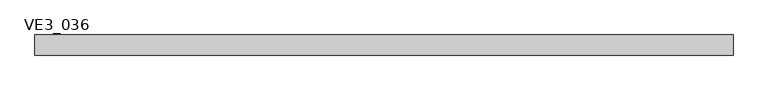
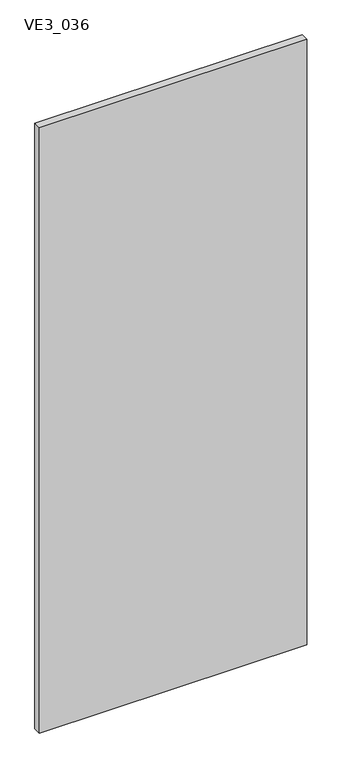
"""IFC4 building model written with IfcOpenShell, lengths in millimetres: plate geometry, TRP_CP_ARC_PF_RE_SE : VE3_036."""

from ifc_helpers import new_model, si_unit, frame, origin, place, context, project, spatial, polyline, outline, extrude, source, transform, mapped, element, save


def ve3_036_5778ea7b(model_context):
    return source(origin(), model_context, "Body", "SweptSolid", [
        extrude(outline(polyline([(613.0941275, 18.0), (613.0941275, -18.0), (-613.0941275, -18.0), (-613.0941275, 18.0), (613.0941275, 18.0)])), frame((0.0, 0.0, -3.1739529), z_axis=(0.0, 0.0, 1.0), x_axis=(1.0, 0.0, 0.0)), (0.0, 0.0, 1.0), 2933.1739529),
    ])


if __name__ == "__main__":
    model = new_model("IFC4")
    model_context = context("Model", 3, world=origin())
    ifc_project = project(units=[si_unit("LENGTHUNIT", "METRE", prefix="MILLI")], contexts=[model_context])
    site = spatial("IfcSite", under=ifc_project)
    building = spatial("IfcBuilding", under=site)
    placement = place(None, origin())
    ve3_036_shape = ve3_036_5778ea7b(model_context)
    element("IfcPlate", 1, ObjectType="TRP_CP_ARC_PF_RE_SE : VE3_036", at=placement, inside=building, context=model_context, shape_type="MappedRepresentation", body=[
        mapped(ve3_036_shape, transform((0.0, 0.0, 0.0), x_axis=(1.0, 0.0, 0.0), y_axis=(0.0, 1.0, 0.0), z_axis=(0.0, 0.0, 1.0))),
    ])
    save(model, "model.ifc")
